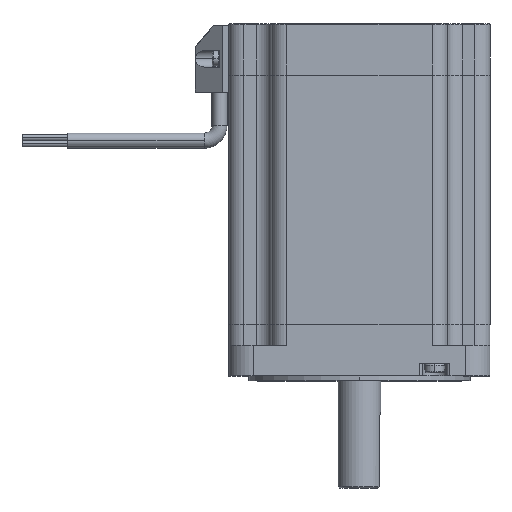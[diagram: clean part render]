
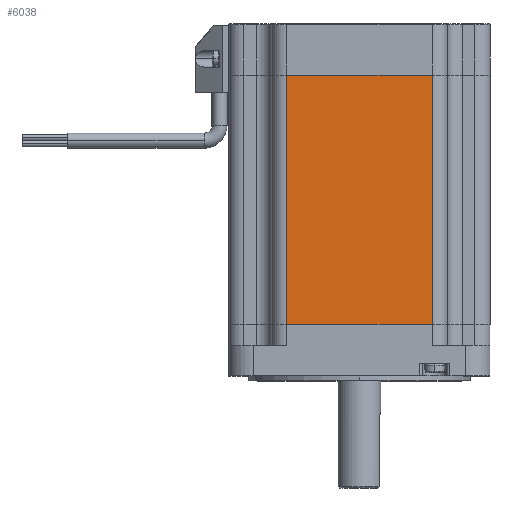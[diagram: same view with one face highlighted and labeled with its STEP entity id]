
A CAD part, top view. The second image highlights one B-rep face of the part: STEP entity #6038.
In plain terms, the highlighted planar face has unit normal (0, 0, 1).
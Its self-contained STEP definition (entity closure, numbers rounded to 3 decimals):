
#18 = EDGE_CURVE ( 'NONE', #9107, #2733, #2614, .T. ) ;
#139 = EDGE_CURVE ( 'NONE', #13946, #4303, #1605, .T. ) ;
#446 = CARTESIAN_POINT ( 'NONE',  ( -24., 82., 43. ) ) ;
#1401 = DIRECTION ( 'NONE',  ( 0., 1., 0. ) ) ;
#1605 = LINE ( 'NONE', #4920, #12714 ) ;
#2601 = DIRECTION ( 'NONE',  ( 1., 0., 0. ) ) ;
#2614 = LINE ( 'NONE', #13373, #10872 ) ;
#2733 = VERTEX_POINT ( 'NONE', #13799 ) ;
#2855 = ORIENTED_EDGE ( 'NONE', *, *, #3733, .T. ) ;
#3073 = VECTOR ( 'NONE', #1401, 1000. ) ;
#3733 = EDGE_CURVE ( 'NONE', #4303, #2733, #10192, .T. ) ;
#3853 = FACE_OUTER_BOUND ( 'NONE', #9758, .T. ) ;
#4303 = VERTEX_POINT ( 'NONE', #6631 ) ;
#4502 = AXIS2_PLACEMENT_3D ( 'NONE', #6381, #13903, #7464 ) ;
#4920 = CARTESIAN_POINT ( 'NONE',  ( 43., 0., 43. ) ) ;
#5810 = VECTOR ( 'NONE', #7992, 1000. ) ;
#5892 = CARTESIAN_POINT ( 'NONE',  ( 24., 82., 43. ) ) ;
#5919 = LINE ( 'NONE', #12136, #3073 ) ;
#6038 = ADVANCED_FACE ( 'NONE', ( #3853 ), #6329, .F. ) ;
#6329 = PLANE ( 'NONE',  #4502 ) ;
#6381 = CARTESIAN_POINT ( 'NONE',  ( 43., 82., 43. ) ) ;
#6600 = CARTESIAN_POINT ( 'NONE',  ( -24., 0., 43. ) ) ;
#6631 = CARTESIAN_POINT ( 'NONE',  ( 24., 0., 43. ) ) ;
#7464 = DIRECTION ( 'NONE',  ( -1., 0., 0. ) ) ;
#7992 = DIRECTION ( 'NONE',  ( 0., 1., 0. ) ) ;
#9107 = VERTEX_POINT ( 'NONE', #446 ) ;
#9426 = ORIENTED_EDGE ( 'NONE', *, *, #18, .F. ) ;
#9758 = EDGE_LOOP ( 'NONE', ( #11641, #2855, #9426, #10909 ) ) ;
#9804 = DIRECTION ( 'NONE',  ( 1., 0., 0. ) ) ;
#10192 = LINE ( 'NONE', #5892, #5810 ) ;
#10872 = VECTOR ( 'NONE', #2601, 1000. ) ;
#10909 = ORIENTED_EDGE ( 'NONE', *, *, #12810, .F. ) ;
#11641 = ORIENTED_EDGE ( 'NONE', *, *, #139, .T. ) ;
#12136 = CARTESIAN_POINT ( 'NONE',  ( -24., 82., 43. ) ) ;
#12714 = VECTOR ( 'NONE', #9804, 1000. ) ;
#12810 = EDGE_CURVE ( 'NONE', #13946, #9107, #5919, .T. ) ;
#13373 = CARTESIAN_POINT ( 'NONE',  ( 43., 82., 43. ) ) ;
#13799 = CARTESIAN_POINT ( 'NONE',  ( 24., 82., 43. ) ) ;
#13903 = DIRECTION ( 'NONE',  ( 0., 0., -1. ) ) ;
#13946 = VERTEX_POINT ( 'NONE', #6600 ) ;
